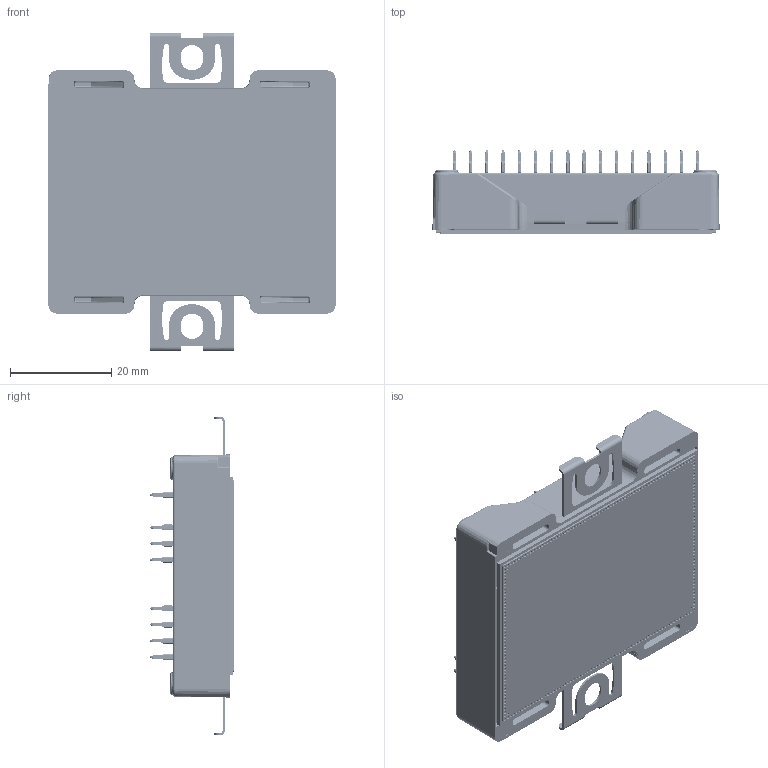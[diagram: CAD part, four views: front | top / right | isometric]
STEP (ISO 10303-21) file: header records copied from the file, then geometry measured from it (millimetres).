
FILE_DESCRIPTION (( 'STEP AP214' ), '1' );
FILE_NAME ('CAB011A12GM3T (2026-06-05).STEP', '2026-06-06T00:49:13', ( '' ), ( '' ), 'SwSTEP 2.0', 'SolidWorks 2025', '' );
FILE_SCHEMA (( 'AUTOMOTIVE_DESIGN' ));
Length unit declared in the file: millimetre
Products named in the file (1): CAB011A12GM3T (2026-06-05)
Bounding box: 56.7 x 16.65 x 62.8 mm (x, y, z)
Volume: 24145.1 mm3; surface area: 17989 mm2
Topology: 34 solids, 36 shells, 5387 faces, 13274 edges, 8282 vertices
Faces by surface type: cylinder 1709, plane 1512, bspline 1102, cone 1064
Entity records: 178247 total; most frequent: CARTESIAN_POINT 58743, ORIENTED_EDGE 26548, DIRECTION 22909, EDGE_CURVE 13274, AXIS2_PLACEMENT_3D 8822, VERTEX_POINT 8282, EDGE_LOOP 6050, ADVANCED_FACE 5387
